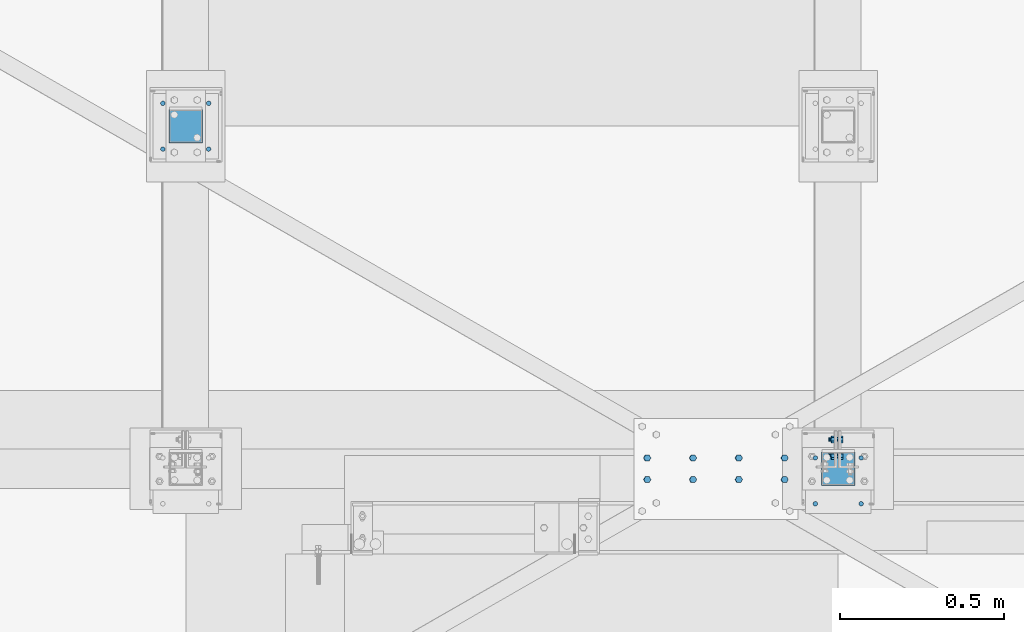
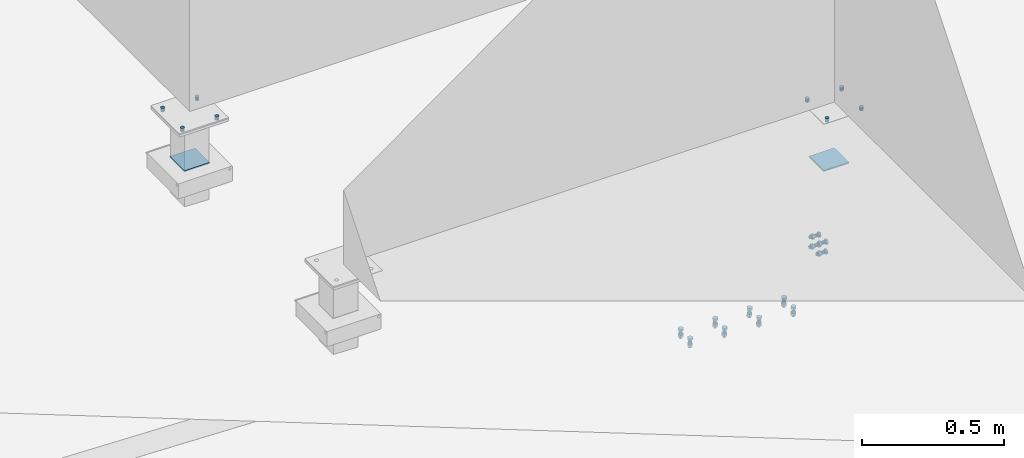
# One storey, part 369 of 3134: 6 mechanical fasteners, 4 elements without a shape of their own.
"""IFC2X3 building model written with IfcOpenShell, lengths in millimetres."""

from ifc_helpers import new_model, si_unit, frame, origin_with_axes, place, context, subcontext, project, spatial, faceted_brep, source, transform, mapped, material, type_object, element, aggregate, save


model = new_model("IFC2X3")

# Units and contexts
model_context = context("Model", 3, precision=1e-05, world=origin_with_axes())
body_context = subcontext(model_context, "Body", "Model", "MODEL_VIEW")
ifc_project = project(units=[si_unit("LENGTHUNIT", "METRE", prefix="MILLI"), si_unit("AREAUNIT", "SQUARE_METRE"), si_unit("VOLUMEUNIT", "CUBIC_METRE"), si_unit("MASSUNIT", "GRAM", prefix="KILO"), si_unit("TIMEUNIT", "SECOND"), si_unit("PLANEANGLEUNIT", "RADIAN"), si_unit("SOLIDANGLEUNIT", "STERADIAN"), si_unit("THERMODYNAMICTEMPERATUREUNIT", "DEGREE_CELSIUS"), si_unit("LUMINOUSINTENSITYUNIT", "LUMEN")], contexts=[model_context])

# Site, building, storey
site_placement = place(None, origin_with_axes())
site = spatial("IfcSite", under=ifc_project, at=site_placement, CompositionType="ELEMENT")
building_placement = place(site_placement, origin_with_axes())
building = spatial("IfcBuilding", under=site, at=building_placement, Name="Undefined", CompositionType="ELEMENT")
storey_placement = place(building_placement, origin_with_axes())
storey = spatial("IfcBuildingStorey", under=building, at=storey_placement, Name="Undefined", CompositionType="ELEMENT", Elevation=0.0)

# Assembly, mechanical fastener
assembly_1_placement = place(storey_placement, origin_with_axes())
assembly_1 = element("IfcElementAssembly", 1, at=assembly_1_placement, inside=storey, AssemblyPlace="NOTDEFINED", PredefinedType="RIGID_FRAME")
ifc_material_1 = material(Name="6.8")
mechanical_fastener_type = type_object("IfcMechanicalFastenerType", Name="Bolt assembly")
shared_shape_1 = source(origin_with_axes(), body_context, "Body", "Brep", [
    faceted_brep([(51.5, 1.36424205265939e-12, 50.0), (51.3858192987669, 1.36424205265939e-12, 50.5740251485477), (51.0606601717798, 1.36424205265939e-12, 51.0606601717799), (50.5740251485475, 1.36424205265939e-12, 51.385819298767), (-50.0000000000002, 1.36424205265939e-12, 51.5), (-50.7500000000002, 1.36424205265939e-12, 51.2990381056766), (-51.2990381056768, 1.36424205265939e-12, 50.7499999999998), (-51.5, 1.36424205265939e-12, 49.9999999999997), (-51.5, 1.36424205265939e-12, -50.0000000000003), (-51.2990381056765, 1.36424205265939e-12, -50.7500000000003), (-50.7499999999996, 1.36424205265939e-12, -51.2990381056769), (-49.9999999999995, 1.36424205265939e-12, -51.5), (50.0000000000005, 1.36424205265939e-12, -51.5), (50.7500000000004, 1.36424205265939e-12, -51.2990381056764), (51.2990381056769, 1.36424205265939e-12, -50.7499999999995), (51.5, 1.36424205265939e-12, -49.9999999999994), (51.5, 5.10000000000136, -49.9999999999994), (51.2990381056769, 5.10000000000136, -50.7499999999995), (50.7500000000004, 5.10000000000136, -51.2990381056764), (50.0000000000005, 5.10000000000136, -51.5), (-49.9999999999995, 5.10000000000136, -51.5), (-50.7499999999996, 5.10000000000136, -51.2990381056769), (-51.2990381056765, 5.10000000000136, -50.7500000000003), (-51.5, 5.10000000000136, -50.0000000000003), (-51.5, 5.10000000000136, 49.9999999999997), (-51.2990381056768, 5.10000000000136, 50.7499999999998), (-50.7500000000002, 5.10000000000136, 51.2990381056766), (-50.0000000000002, 5.10000000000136, 51.5), (50.5740251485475, 5.10000000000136, 51.385819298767), (51.0606601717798, 5.10000000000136, 51.0606601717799), (51.3858192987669, 5.10000000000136, 50.5740251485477), (51.5, 5.10000000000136, 50.0)], [[[0, 1, 2, 3, 4, 5, 6, 7, 8, 9, 10, 11, 12, 13, 14, 15]], [[16, 17, 18, 19, 20, 21, 22, 23, 24, 25, 26, 27, 28, 29, 30, 31]], [[0, 31, 30, 1]], [[1, 30, 29, 2]], [[2, 29, 28, 3]], [[3, 28, 27, 4]], [[4, 27, 26, 5]], [[5, 26, 25, 6]], [[6, 25, 24, 7]], [[7, 24, 23, 8]], [[8, 23, 22, 9]], [[9, 22, 21, 10]], [[10, 21, 20, 11]], [[11, 20, 19, 12]], [[12, 19, 18, 13]], [[13, 18, 17, 14]], [[14, 17, 16, 15]], [[15, 16, 31, 0]]]),
])
mechanical_fastener_1_placement = place(assembly_1_placement, frame((75824.0, 19800.0, 4212.39), z_axis=(0.0, -1.0, 0.0), x_axis=(-1.0, 0.0, 0.0)))
mechanical_fastener_1 = element("IfcMechanicalFastener", 2, at=mechanical_fastener_1_placement, type_object=mechanical_fastener_type, material=ifc_material_1, Name="Bolt assembly", NominalDiameter=10.0, NominalLength=5.0, context=body_context, shape_type="MappedRepresentation", body=[
    mapped(shared_shape_1, transform((0.0, 0.0, 0.0))),
])

assembly_2_placement = place(storey_placement, origin_with_axes())
assembly_2 = element("IfcElementAssembly", 3, at=assembly_2_placement, inside=storey, AssemblyPlace="NOTDEFINED", PredefinedType="RIGID_FRAME")
mechanical_fastener_2_placement = place(assembly_2_placement, frame((73830.0, 20847.0, 4274.22), z_axis=(0.0, -1.0, 0.0), x_axis=(-1.0, 0.0, 0.0)))
mechanical_fastener_2 = element("IfcMechanicalFastener", 4, at=mechanical_fastener_2_placement, type_object=mechanical_fastener_type, material=ifc_material_1, Name="Bolt assembly", NominalDiameter=10.0, NominalLength=5.0, context=body_context, shape_type="MappedRepresentation", body=[
    mapped(shared_shape_1, transform((0.0, 0.0, 0.0))),
])

assembly_3_placement = place(storey_placement, origin_with_axes())
assembly_3 = element("IfcElementAssembly", 5, at=assembly_3_placement, inside=storey, AssemblyPlace="NOTDEFINED", PredefinedType="RIGID_FRAME")
ifc_material_2 = material(Name="8.8")
shared_shape_2 = source(origin_with_axes(), body_context, "Body", "Brep", [
    faceted_brep([(10.9696551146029, -14.250187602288, 0.0), (5.48482755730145, -14.250187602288, 9.5), (-5.48482755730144, -14.250187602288, 9.5), (-10.9696551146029, -14.250187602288, 1.34339530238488e-15), (-5.48482755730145, -14.250187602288, -9.5), (5.48482755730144, -14.250187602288, -9.50000000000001), (5.48482755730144, -6.25018760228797, -9.50000000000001), (-5.48482755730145, -6.25018760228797, -9.5), (-10.9696551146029, -6.25018760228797, 1.34339530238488e-15), (-5.48482755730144, -6.25018760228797, 9.5), (5.48482755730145, -6.25018760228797, 9.5), (10.9696551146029, -6.25018760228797, 0.0), (6.0, -6.25018760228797, 0.0), (5.19615242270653, -6.25018760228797, 3.00000000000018), (2.99999999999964, -6.25018760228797, 5.19615242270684), (-6.21801588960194e-13, -6.25018760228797, 6.0), (-3.00000000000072, -6.25018760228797, 5.19615242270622), (-5.19615242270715, -6.25018760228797, 2.9999999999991), (-6.0, -6.25018760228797, -1.24360317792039e-12), (-5.19615242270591, -6.25018760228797, -3.00000000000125), (-2.99999999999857, -6.25018760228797, -5.19615242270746), (1.85874342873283e-12, -6.25018760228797, -6.0), (3.00000000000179, -6.25018760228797, -5.1961524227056), (5.19615242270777, -6.25018760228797, -2.99999999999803), (5.19615242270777, 28.749812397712, -2.99999999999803), (3.00000000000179, 28.749812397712, -5.1961524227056), (1.85874342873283e-12, 28.749812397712, -6.0), (-2.99999999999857, 28.749812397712, -5.19615242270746), (-5.19615242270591, 28.749812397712, -3.00000000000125), (-6.0, 28.749812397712, -1.24360317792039e-12), (-5.19615242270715, 28.749812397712, 2.9999999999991), (-3.00000000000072, 28.749812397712, 5.19615242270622), (-6.21801588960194e-13, 28.749812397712, 6.0), (2.99999999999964, 28.749812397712, 5.19615242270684), (5.19615242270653, 28.749812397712, 3.00000000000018), (6.0, 28.749812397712, 0.0), (10.9696551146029, 11.2575524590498, 0.0), (5.48482755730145, 11.2575524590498, 9.5), (-5.48482755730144, 11.2575524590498, 9.5), (-10.9696551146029, 11.2575524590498, 1.34339530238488e-15), (-5.48482755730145, 11.2575524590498, -9.5), (5.48482755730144, 11.2575524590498, -9.50000000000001), (5.48482755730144, 21.2575524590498, -9.50000000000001), (-5.48482755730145, 21.2575524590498, -9.5), (-10.9696551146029, 21.2575524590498, 1.34339530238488e-15), (-5.48482755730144, 21.2575524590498, 9.5), (5.48482755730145, 21.2575524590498, 9.5), (10.9696551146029, 21.2575524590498, 0.0)], [[[0, 1, 2, 3, 4, 5]], [[6, 7, 8, 9, 10, 11]], [[0, 11, 10, 1]], [[1, 10, 9, 2]], [[2, 9, 8, 3]], [[3, 8, 7, 4]], [[4, 7, 6, 5]], [[5, 6, 11, 0]], [[12, 13, 14, 15, 16, 17, 18, 19, 20, 21, 22, 23]], [[24, 25, 26, 27, 28, 29, 30, 31, 32, 33, 34, 35]], [[12, 35, 34, 13]], [[13, 34, 33, 14]], [[14, 33, 32, 15]], [[15, 32, 31, 16]], [[16, 31, 30, 17]], [[17, 30, 29, 18]], [[18, 29, 28, 19]], [[19, 28, 27, 20]], [[20, 27, 26, 21]], [[21, 26, 25, 22]], [[22, 25, 24, 23]], [[23, 24, 35, 12]], [[36, 37, 38, 39, 40, 41]], [[42, 43, 44, 45, 46, 47]], [[36, 47, 46, 37]], [[37, 46, 45, 38]], [[38, 45, 44, 39]], [[39, 44, 43, 40]], [[40, 43, 42, 41]], [[41, 42, 47, 36]]]),
    faceted_brep([(7.0, 5.15755245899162, 0.0), (6.06217782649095, 5.15755245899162, 3.50000000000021), (3.49999999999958, 5.15755245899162, 6.06217782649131), (-7.25435187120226e-13, 5.15755245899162, 7.0), (-3.50000000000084, 5.15755245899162, 6.06217782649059), (-6.06217782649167, 5.15755245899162, 3.49999999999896), (-7.0, 5.15755245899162, -1.45087037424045e-12), (-6.06217782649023, 5.15755245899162, -3.50000000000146), (-3.49999999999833, 5.15755245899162, -6.06217782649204), (2.1685340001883e-12, 5.15755245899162, -7.0), (3.50000000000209, 5.15755245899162, -6.06217782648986), (6.0621778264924, 5.15755245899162, -3.4999999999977), (6.0621778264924, 11.2575524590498, -3.4999999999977), (3.50000000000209, 11.2575524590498, -6.06217782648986), (2.1685340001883e-12, 11.2575524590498, -7.0), (-3.49999999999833, 11.2575524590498, -6.06217782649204), (-6.06217782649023, 11.2575524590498, -3.50000000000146), (-7.0, 11.2575524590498, -1.45087037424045e-12), (-6.06217782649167, 11.2575524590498, 3.49999999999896), (-3.50000000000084, 11.2575524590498, 6.06217782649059), (-7.25435187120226e-13, 11.2575524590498, 7.0), (3.49999999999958, 11.2575524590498, 6.06217782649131), (6.06217782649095, 11.2575524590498, 3.50000000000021), (7.0, 11.2575524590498, 0.0), (7.0, -6.15018760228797, 0.0), (6.06217782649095, -6.15018760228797, 3.50000000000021), (3.49999999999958, -6.15018760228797, 6.06217782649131), (-7.25435187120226e-13, -6.15018760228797, 7.0), (-3.50000000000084, -6.15018760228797, 6.06217782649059), (-6.06217782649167, -6.15018760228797, 3.49999999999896), (-7.0, -6.15018760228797, -1.45087037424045e-12), (-6.06217782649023, -6.15018760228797, -3.50000000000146), (-3.49999999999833, -6.15018760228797, -6.06217782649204), (2.1685340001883e-12, -6.15018760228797, -7.0), (3.50000000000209, -6.15018760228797, -6.06217782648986), (6.0621778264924, -6.15018760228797, -3.4999999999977), (6.0621778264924, -0.150187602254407, -3.4999999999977), (3.50000000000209, -0.150187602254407, -6.06217782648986), (2.1685340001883e-12, -0.150187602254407, -7.0), (-3.49999999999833, -0.150187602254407, -6.06217782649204), (-6.06217782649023, -0.150187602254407, -3.50000000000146), (-7.0, -0.150187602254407, -1.45087037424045e-12), (-6.06217782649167, -0.150187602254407, 3.49999999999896), (-3.50000000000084, -0.150187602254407, 6.06217782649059), (-7.25435187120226e-13, -0.150187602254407, 7.0), (3.49999999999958, -0.150187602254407, 6.06217782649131), (6.06217782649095, -0.150187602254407, 3.50000000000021), (7.0, -0.150187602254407, 0.0), (7.0, -0.247625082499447, 0.0), (6.06217782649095, -0.247625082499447, 3.50000000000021), (3.49999999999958, -0.247625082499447, 6.06217782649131), (-7.25435187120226e-13, -0.247625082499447, 7.0), (-3.50000000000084, -0.247625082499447, 6.06217782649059), (-6.06217782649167, -0.247625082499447, 3.49999999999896), (-7.0, -0.247625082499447, -1.45087037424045e-12), (-6.06217782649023, -0.247625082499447, -3.50000000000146), (-3.49999999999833, -0.247625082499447, -6.06217782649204), (2.1685340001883e-12, -0.247625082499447, -7.0), (3.50000000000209, -0.247625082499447, -6.06217782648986), (6.0621778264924, -0.247625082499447, -3.4999999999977), (6.0621778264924, 5.25237492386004, -3.4999999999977), (3.50000000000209, 5.25237492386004, -6.06217782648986), (2.1685340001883e-12, 5.25237492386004, -7.0), (-3.49999999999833, 5.25237492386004, -6.06217782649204), (-6.06217782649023, 5.25237492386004, -3.50000000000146), (-7.0, 5.25237492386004, -1.45087037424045e-12), (-6.06217782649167, 5.25237492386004, 3.49999999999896), (-3.50000000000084, 5.25237492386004, 6.06217782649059), (-7.25435187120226e-13, 5.25237492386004, 7.0), (3.49999999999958, 5.25237492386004, 6.06217782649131), (6.06217782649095, 5.25237492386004, 3.50000000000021), (7.0, 5.25237492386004, 0.0)], [[[0, 1, 2, 3, 4, 5, 6, 7, 8, 9, 10, 11]], [[12, 13, 14, 15, 16, 17, 18, 19, 20, 21, 22, 23]], [[0, 23, 22, 1]], [[1, 22, 21, 2]], [[2, 21, 20, 3]], [[3, 20, 19, 4]], [[4, 19, 18, 5]], [[5, 18, 17, 6]], [[6, 17, 16, 7]], [[7, 16, 15, 8]], [[8, 15, 14, 9]], [[9, 14, 13, 10]], [[10, 13, 12, 11]], [[11, 12, 23, 0]], [[24, 25, 26, 27, 28, 29, 30, 31, 32, 33, 34, 35]], [[36, 37, 38, 39, 40, 41, 42, 43, 44, 45, 46, 47]], [[24, 47, 46, 25]], [[25, 46, 45, 26]], [[26, 45, 44, 27]], [[27, 44, 43, 28]], [[28, 43, 42, 29]], [[29, 42, 41, 30]], [[30, 41, 40, 31]], [[31, 40, 39, 32]], [[32, 39, 38, 33]], [[33, 38, 37, 34]], [[34, 37, 36, 35]], [[35, 36, 47, 24]], [[48, 49, 50, 51, 52, 53, 54, 55, 56, 57, 58, 59]], [[60, 61, 62, 63, 64, 65, 66, 67, 68, 69, 70, 71]], [[48, 71, 70, 49]], [[49, 70, 69, 50]], [[50, 69, 68, 51]], [[51, 68, 67, 52]], [[52, 67, 66, 53]], [[53, 66, 65, 54]], [[54, 65, 64, 55]], [[55, 64, 63, 56]], [[56, 63, 62, 57]], [[57, 62, 61, 58]], [[58, 61, 60, 59]], [[59, 60, 71, 48]]]),
])
mechanical_fastener_3_placement = place(assembly_3_placement, frame((75824.0676006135, 19840.01, 3809.24004724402), z_axis=(0.0309396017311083, 0.0, 0.999521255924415), x_axis=(0.0, 1.0, 0.0)))
mechanical_fastener_3 = element("IfcMechanicalFastener", 6, at=mechanical_fastener_3_placement, type_object=mechanical_fastener_type, material=ifc_material_2, Name="Bolt assembly", NominalDiameter=12.0, NominalLength=35.0, context=body_context, shape_type="MappedRepresentation", body=[
    mapped(shared_shape_2, transform((0.0, 0.0, -21.0))),
    mapped(shared_shape_2, transform((50.0, -1.01863406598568e-10, -20.9999999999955))),
    mapped(shared_shape_2, transform((0.0, 0.0, 21.0))),
    mapped(shared_shape_2, transform((50.0, 1.30967237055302e-10, 20.9999999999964))),
])
aggregate(assembly_3, [mechanical_fastener_3])

# Mechanical fastener
shared_shape_3 = source(origin_with_axes(), body_context, "Body", "Brep", [
    faceted_brep([(7.0, -4.90000000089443, 0.0), (6.06217782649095, -4.90000000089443, 3.50000000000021), (3.49999999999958, -4.90000000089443, 6.06217782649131), (-7.25435187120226e-13, -4.90000000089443, 7.0), (-3.50000000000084, -4.90000000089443, 6.06217782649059), (-6.06217782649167, -4.90000000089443, 3.49999999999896), (-7.0, -4.90000000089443, -1.45087037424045e-12), (-6.06217782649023, -4.90000000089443, -3.50000000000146), (-3.49999999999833, -4.90000000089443, -6.06217782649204), (2.1685340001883e-12, -4.90000000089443, -7.0), (3.50000000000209, -4.90000000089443, -6.06217782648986), (6.0621778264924, -4.90000000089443, -3.4999999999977), (6.0621778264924, 0.0999999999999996, -3.4999999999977), (3.50000000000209, 0.0999999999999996, -6.06217782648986), (2.1685340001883e-12, 0.0999999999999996, -7.0), (-3.49999999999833, 0.0999999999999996, -6.06217782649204), (-6.06217782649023, 0.0999999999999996, -3.50000000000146), (-7.0, 0.0999999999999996, -1.45087037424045e-12), (-6.06217782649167, 0.0999999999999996, 3.49999999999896), (-3.50000000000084, 0.0999999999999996, 6.06217782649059), (-7.25435187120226e-13, 0.0999999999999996, 7.0), (3.49999999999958, 0.0999999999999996, 6.06217782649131), (6.06217782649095, 0.0999999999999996, 3.50000000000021), (7.0, 0.0999999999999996, 0.0), (7.0, -0.1, 0.0), (6.06217782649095, -0.1, 3.50000000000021), (3.49999999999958, -0.1, 6.06217782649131), (-7.25435187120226e-13, -0.1, 7.0), (-3.50000000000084, -0.1, 6.06217782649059), (-6.06217782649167, -0.1, 3.49999999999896), (-7.0, -0.1, -1.45087037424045e-12), (-6.06217782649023, -0.1, -3.50000000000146), (-3.49999999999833, -0.1, -6.06217782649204), (2.1685340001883e-12, -0.1, -7.0), (3.50000000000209, -0.1, -6.06217782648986), (6.0621778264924, -0.1, -3.4999999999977), (6.0621778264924, 10.0, -3.4999999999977), (3.50000000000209, 10.0, -6.06217782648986), (2.1685340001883e-12, 10.0, -7.0), (-3.49999999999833, 10.0, -6.06217782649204), (-6.06217782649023, 10.0, -3.50000000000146), (-7.0, 10.0, -1.45087037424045e-12), (-6.06217782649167, 10.0, 3.49999999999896), (-3.50000000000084, 10.0, 6.06217782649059), (-7.25435187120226e-13, 10.0, 7.0), (3.49999999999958, 10.0, 6.06217782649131), (6.06217782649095, 10.0, 3.50000000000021), (7.0, 10.0, 0.0)], [[[0, 1, 2, 3, 4, 5, 6, 7, 8, 9, 10, 11]], [[12, 13, 14, 15, 16, 17, 18, 19, 20, 21, 22, 23]], [[0, 23, 22, 1]], [[1, 22, 21, 2]], [[2, 21, 20, 3]], [[3, 20, 19, 4]], [[4, 19, 18, 5]], [[5, 18, 17, 6]], [[6, 17, 16, 7]], [[7, 16, 15, 8]], [[8, 15, 14, 9]], [[9, 14, 13, 10]], [[10, 13, 12, 11]], [[11, 12, 23, 0]], [[24, 25, 26, 27, 28, 29, 30, 31, 32, 33, 34, 35]], [[36, 37, 38, 39, 40, 41, 42, 43, 44, 45, 46, 47]], [[24, 47, 46, 25]], [[25, 46, 45, 26]], [[26, 45, 44, 27]], [[27, 44, 43, 28]], [[28, 43, 42, 29]], [[29, 42, 41, 30]], [[30, 41, 40, 31]], [[31, 40, 39, 32]], [[32, 39, 38, 33]], [[33, 38, 37, 34]], [[34, 37, 36, 35]], [[35, 36, 47, 24]]]),
])
mechanical_fastener_4_placement = place(assembly_1_placement, frame((75824.0, 19693.16, 4475.0), z_axis=(-1.0, 0.0, 0.0), x_axis=(0.0, 1.0, 0.0)))
mechanical_fastener_4 = element("IfcMechanicalFastener", 7, at=mechanical_fastener_4_placement, type_object=mechanical_fastener_type, material=ifc_material_2, Name="Bolt assembly", NominalDiameter=12.0, NominalLength=15.0, context=body_context, shape_type="MappedRepresentation", body=[
    mapped(shared_shape_3, transform((0.0, 0.0, -70.0))),
    mapped(shared_shape_3, transform((140.0, 0.0, -70.0))),
    mapped(shared_shape_3, transform((0.0, 0.0, 70.0))),
    mapped(shared_shape_3, transform((140.0, 0.0, 70.0))),
])

aggregate(assembly_1, [mechanical_fastener_1, mechanical_fastener_4])

mechanical_fastener_5_placement = place(assembly_2_placement, frame((73830.0, 20777.0, 4475.0), z_axis=(-1.0, 0.0, 0.0), x_axis=(0.0, 1.0, 0.0)))
mechanical_fastener_5 = element("IfcMechanicalFastener", 8, at=mechanical_fastener_5_placement, type_object=mechanical_fastener_type, material=ifc_material_2, Name="Bolt assembly", NominalDiameter=12.0, NominalLength=15.0, context=body_context, shape_type="MappedRepresentation", body=[
    mapped(shared_shape_3, transform((0.0, 0.0, -70.0))),
    mapped(shared_shape_3, transform((140.0, 0.0, -70.0))),
    mapped(shared_shape_3, transform((0.0, 0.0, 70.0))),
    mapped(shared_shape_3, transform((140.0, 0.0, 70.0))),
])

aggregate(assembly_2, [mechanical_fastener_5, mechanical_fastener_2])

# Assembly, mechanical fastener
assembly_4_placement = place(storey_placement, origin_with_axes())
assembly_4 = element("IfcElementAssembly", 9, at=assembly_4_placement, inside=storey, Name="IPE240", AssemblyPlace="NOTDEFINED", PredefinedType="RIGID_FRAME")
shared_shape_4 = source(origin_with_axes(), body_context, "Body", "Brep", [
    faceted_brep([(10.9696551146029, -17.8000021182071, 0.0), (5.48482755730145, -17.8000021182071, 9.5), (-5.48482755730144, -17.8000021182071, 9.5), (-10.9696551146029, -17.8000021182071, 1.34339530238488e-15), (-5.48482755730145, -17.8000021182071, -9.5), (5.48482755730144, -17.8000021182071, -9.50000000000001), (5.48482755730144, -9.80000211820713, -9.50000000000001), (-5.48482755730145, -9.80000211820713, -9.5), (-10.9696551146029, -9.80000211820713, 1.34339530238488e-15), (-5.48482755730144, -9.80000211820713, 9.5), (5.48482755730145, -9.80000211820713, 9.5), (10.9696551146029, -9.80000211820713, 0.0), (6.0, -9.80000211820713, 0.0), (5.19615242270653, -9.80000211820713, 3.00000000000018), (2.99999999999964, -9.80000211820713, 5.19615242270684), (-6.21801588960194e-13, -9.80000211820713, 6.0), (-3.00000000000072, -9.80000211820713, 5.19615242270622), (-5.19615242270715, -9.80000211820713, 2.9999999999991), (-6.0, -9.80000211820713, -1.24360317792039e-12), (-5.19615242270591, -9.80000211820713, -3.00000000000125), (-2.99999999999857, -9.80000211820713, -5.19615242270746), (1.85874342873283e-12, -9.80000211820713, -6.0), (3.00000000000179, -9.80000211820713, -5.1961524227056), (5.19615242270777, -9.80000211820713, -2.99999999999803), (5.19615242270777, 25.1999978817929, -2.99999999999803), (3.00000000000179, 25.1999978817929, -5.1961524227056), (1.85874342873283e-12, 25.1999978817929, -6.0), (-2.99999999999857, 25.1999978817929, -5.19615242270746), (-5.19615242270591, 25.1999978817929, -3.00000000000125), (-6.0, 25.1999978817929, -1.24360317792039e-12), (-5.19615242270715, 25.1999978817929, 2.9999999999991), (-3.00000000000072, 25.1999978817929, 5.19615242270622), (-6.21801588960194e-13, 25.1999978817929, 6.0), (2.99999999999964, 25.1999978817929, 5.19615242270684), (5.19615242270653, 25.1999978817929, 3.00000000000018), (6.0, 25.1999978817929, 0.0), (10.9696551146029, 8.0, 0.0), (5.48482755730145, 8.0, 9.5), (-5.48482755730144, 8.0, 9.5), (-10.9696551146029, 8.0, 1.34339530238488e-15), (-5.48482755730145, 8.0, -9.5), (5.48482755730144, 8.0, -9.50000000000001), (5.48482755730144, 18.0, -9.50000000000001), (-5.48482755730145, 18.0, -9.5), (-10.9696551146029, 18.0, 1.34339530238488e-15), (-5.48482755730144, 18.0, 9.5), (5.48482755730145, 18.0, 9.5), (10.9696551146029, 18.0, 0.0)], [[[0, 1, 2, 3, 4, 5]], [[6, 7, 8, 9, 10, 11]], [[0, 11, 10, 1]], [[1, 10, 9, 2]], [[2, 9, 8, 3]], [[3, 8, 7, 4]], [[4, 7, 6, 5]], [[5, 6, 11, 0]], [[12, 13, 14, 15, 16, 17, 18, 19, 20, 21, 22, 23]], [[24, 25, 26, 27, 28, 29, 30, 31, 32, 33, 34, 35]], [[12, 35, 34, 13]], [[13, 34, 33, 14]], [[14, 33, 32, 15]], [[15, 32, 31, 16]], [[16, 31, 30, 17]], [[17, 30, 29, 18]], [[18, 29, 28, 19]], [[19, 28, 27, 20]], [[20, 27, 26, 21]], [[21, 26, 25, 22]], [[22, 25, 24, 23]], [[23, 24, 35, 12]], [[36, 37, 38, 39, 40, 41]], [[42, 43, 44, 45, 46, 47]], [[36, 47, 46, 37]], [[37, 46, 45, 38]], [[38, 45, 44, 39]], [[39, 44, 43, 40]], [[40, 43, 42, 41]], [[41, 42, 47, 36]]]),
    faceted_brep([(7.0, -0.1, 0.0), (6.06217782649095, -0.1, 3.50000000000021), (3.49999999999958, -0.1, 6.06217782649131), (-7.25435187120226e-13, -0.1, 7.0), (-3.50000000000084, -0.1, 6.06217782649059), (-6.06217782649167, -0.1, 3.49999999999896), (-7.0, -0.1, -1.45087037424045e-12), (-6.06217782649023, -0.1, -3.50000000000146), (-3.49999999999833, -0.1, -6.06217782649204), (2.1685340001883e-12, -0.1, -7.0), (3.50000000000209, -0.1, -6.06217782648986), (6.0621778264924, -0.1, -3.4999999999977), (6.0621778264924, 8.0000000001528, -3.4999999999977), (3.50000000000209, 8.0000000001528, -6.06217782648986), (2.1685340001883e-12, 8.0000000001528, -7.0), (-3.49999999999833, 8.0000000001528, -6.06217782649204), (-6.06217782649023, 8.0000000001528, -3.50000000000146), (-7.0, 8.0000000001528, -1.45087037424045e-12), (-6.06217782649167, 8.0000000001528, 3.49999999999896), (-3.50000000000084, 8.0000000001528, 6.06217782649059), (-7.25435187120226e-13, 8.0000000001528, 7.0), (3.49999999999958, 8.0000000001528, 6.06217782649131), (6.06217782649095, 8.0000000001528, 3.50000000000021), (7.0, 8.0000000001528, 0.0), (7.0, -9.70000211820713, 0.0), (6.06217782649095, -9.70000211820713, 3.50000000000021), (3.49999999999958, -9.70000211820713, 6.06217782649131), (-7.25435187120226e-13, -9.70000211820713, 7.0), (-3.50000000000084, -9.70000211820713, 6.06217782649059), (-6.06217782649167, -9.70000211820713, 3.49999999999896), (-7.0, -9.70000211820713, -1.45087037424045e-12), (-6.06217782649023, -9.70000211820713, -3.50000000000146), (-3.49999999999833, -9.70000211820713, -6.06217782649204), (2.1685340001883e-12, -9.70000211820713, -7.0), (3.50000000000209, -9.70000211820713, -6.06217782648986), (6.0621778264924, -9.70000211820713, -3.4999999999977), (6.0621778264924, 0.0999999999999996, -3.4999999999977), (3.50000000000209, 0.0999999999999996, -6.06217782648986), (2.1685340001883e-12, 0.0999999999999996, -7.0), (-3.49999999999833, 0.0999999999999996, -6.06217782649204), (-6.06217782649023, 0.0999999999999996, -3.50000000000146), (-7.0, 0.0999999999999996, -1.45087037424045e-12), (-6.06217782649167, 0.0999999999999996, 3.49999999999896), (-3.50000000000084, 0.0999999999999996, 6.06217782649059), (-7.25435187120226e-13, 0.0999999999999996, 7.0), (3.49999999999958, 0.0999999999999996, 6.06217782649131), (6.06217782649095, 0.0999999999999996, 3.50000000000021), (7.0, 0.0999999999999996, 0.0)], [[[0, 1, 2, 3, 4, 5, 6, 7, 8, 9, 10, 11]], [[12, 13, 14, 15, 16, 17, 18, 19, 20, 21, 22, 23]], [[0, 23, 22, 1]], [[1, 22, 21, 2]], [[2, 21, 20, 3]], [[3, 20, 19, 4]], [[4, 19, 18, 5]], [[5, 18, 17, 6]], [[6, 17, 16, 7]], [[7, 16, 15, 8]], [[8, 15, 14, 9]], [[9, 14, 13, 10]], [[10, 13, 12, 11]], [[11, 12, 23, 0]], [[24, 25, 26, 27, 28, 29, 30, 31, 32, 33, 34, 35]], [[36, 37, 38, 39, 40, 41, 42, 43, 44, 45, 46, 47]], [[24, 47, 46, 25]], [[25, 46, 45, 26]], [[26, 45, 44, 27]], [[27, 44, 43, 28]], [[28, 43, 42, 29]], [[29, 42, 41, 30]], [[30, 41, 40, 31]], [[31, 40, 39, 32]], [[32, 39, 38, 33]], [[33, 38, 37, 34]], [[34, 37, 36, 35]], [[35, 36, 47, 24]]]),
])
mechanical_fastener_6_placement = place(assembly_4_placement, frame((75659.9727494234, 19799.9974358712, 3640.69060574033), z_axis=(-5.10000051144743e-06, -0.999999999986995, 0.0), x_axis=(-0.999519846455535, 5.50000025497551e-06, 0.0309851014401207)))
mechanical_fastener_6 = element("IfcMechanicalFastener", 10, at=mechanical_fastener_6_placement, type_object=mechanical_fastener_type, material=ifc_material_2, Name="Bolt assembly", NominalDiameter=12.0, NominalLength=35.0, context=body_context, shape_type="MappedRepresentation", body=[
    mapped(shared_shape_4, transform((0.0, 0.0, -33.0))),
    mapped(shared_shape_4, transform((140.000000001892, -1.64072844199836e-09, -32.9999999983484))),
    mapped(shared_shape_4, transform((280.000000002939, -3.56703822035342e-09, -32.9999999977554))),
    mapped(shared_shape_4, transform((420.000000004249, -5.35692379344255e-09, -32.9999999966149))),
    mapped(shared_shape_4, transform((0.0, 0.0, 33.0))),
    mapped(shared_shape_4, transform((140.000000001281, -1.73167791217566e-09, 33.0000000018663))),
    mapped(shared_shape_4, transform((280.000000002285, -3.59614205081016e-09, 33.0000000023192))),
    mapped(shared_shape_4, transform((420.000000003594, -5.38784661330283e-09, 33.0000000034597))),
])
aggregate(assembly_4, [mechanical_fastener_6])

save(model, "model.ifc")
